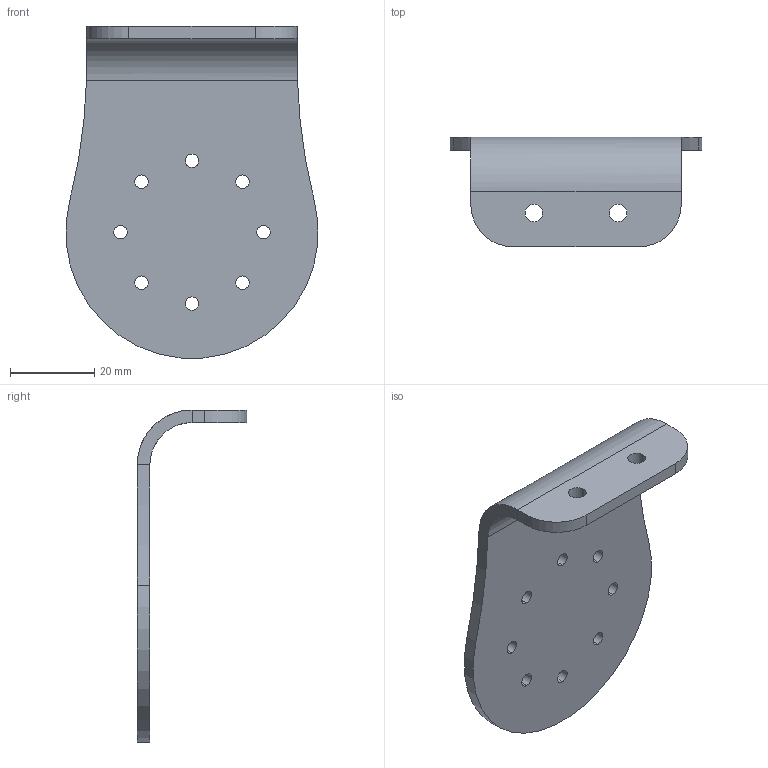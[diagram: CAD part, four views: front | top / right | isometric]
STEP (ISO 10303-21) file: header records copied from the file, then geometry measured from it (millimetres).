
FILE_DESCRIPTION (( 'STEP AP214' ), '1' );
FILE_NAME ('PING360-M-FRAME-MOUNT-R1.STEP', '2019-07-31T16:48:13', ( '' ), ( '' ), 'SwSTEP 2.0', 'SolidWorks 2016', '' );
FILE_SCHEMA (( 'AUTOMOTIVE_DESIGN' ));
Length unit declared in the file: millimetre
Products named in the file (1): PING360-M-FRAME-MOUNT-R1
Bounding box: 59.83 x 26 x 78.89 mm (x, y, z)
Volume: 14365.8 mm3; surface area: 10709.5 mm2
Topology: 1 solids, 1 shells, 36 faces, 94 edges, 60 vertices
Faces by surface type: cylinder 27, plane 7, bspline 2
Entity records: 1366 total; most frequent: CARTESIAN_POINT 337, DIRECTION 206, ORIENTED_EDGE 188, EDGE_CURVE 94, AXIS2_PLACEMENT_3D 85, VERTEX_POINT 60, EDGE_LOOP 56, CIRCLE 50
